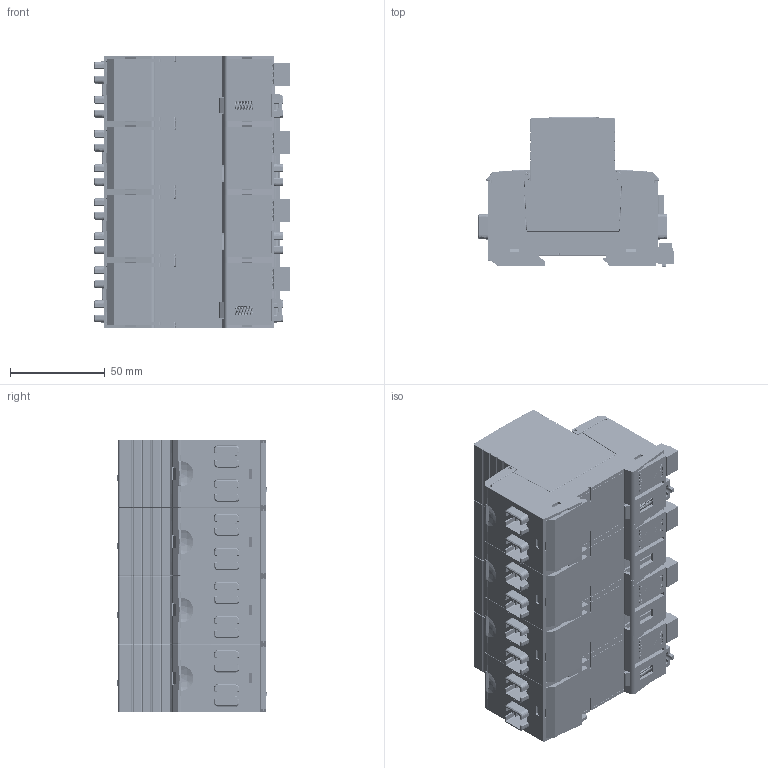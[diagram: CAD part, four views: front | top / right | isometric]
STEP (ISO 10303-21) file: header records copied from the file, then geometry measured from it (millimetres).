
FILE_DESCRIPTION(/* description */ ('Unknown'),/* implementation_level */ '2;1');
FILE_NAME(/* name */ 'SD25TS1300L306',/* time_stamp */ '2023-04-10T12:03:49+08:00',/* author */ ('Unknown'),/* organization */ ('Unknown'),/* preprocessor_version */ 'ST-DEVELOPER v16.7',/* originating_system */ 'Solid Edge',/* authorisation */ 'Unknown');
FILE_SCHEMA (('AUTOMOTIVE_DESIGN {1 0 10303 214 3 1 1}'));
Products named in the file (38): ASM1000000833; ASM1000000062_oa_0; PRT1000000244; PRT1000000241; PRT1000000114; PRT1000001015; ASM1000000813_oa_1; PRT1000000236; ASM1000000062_oa_2; ASM1000000813_oa_3; ASM1000000062_oa_4; ASM1000000813_oa_5; ASM1000000062_oa_6; ASM1000000813_oa_7; ASM1000000065_oa_8; PRT1000000240; PRT1000000239; ASM1000000064_oa_9; PRT1000000238; ASM1000000020_oa_10; PRT1000000088; PRT1000000117; PRT1000001237; PRT1000004085; ASM1000000065_oa_11; ASM1000000064_oa_12; ASM1000000020_oa_13; ASM1000000065_oa_14; ASM1000000064_oa_15; ASM1000000020_oa_16; ASM1000000065_oa_17; ASM1000000064_oa_18; ASM1000000020_oa_19; PRT1000000121; PRT1000000120; PRT1000001242; PRT1000000232; PRT1000000231
Assembly tree (91 placements, depth 4):
  ASM1000000833
    ASM1000000062_oa_0
      PRT1000000244
      PRT1000000241  x2
      PRT1000000114  x2
      PRT1000001015
      ASM1000000813_oa_1
        PRT1000000236
    ASM1000000062_oa_2
      PRT1000000244
      PRT1000000241  x2
      PRT1000000114  x2
      PRT1000001015
      ASM1000000813_oa_3
        PRT1000000236
    ASM1000000062_oa_4
      PRT1000000244
      PRT1000000241  x2
      PRT1000000114  x2
      PRT1000001015
      ASM1000000813_oa_5
        PRT1000000236
    ASM1000000062_oa_6
      PRT1000000244
      PRT1000000241  x2
      PRT1000000114  x2
      PRT1000001015
      ASM1000000813_oa_7
        PRT1000000236
    ASM1000000065_oa_8
      PRT1000000240
      PRT1000000239
      ASM1000000064_oa_9
        PRT1000000238
      ASM1000000020_oa_10
        PRT1000000088
      PRT1000000117
      PRT1000001237  x3
      PRT1000004085
    ASM1000000065_oa_11
      PRT1000000240
      PRT1000000239
      ASM1000000064_oa_12
        PRT1000000238
      ASM1000000020_oa_13
        PRT1000000088
      PRT1000000117
      PRT1000001237  x3
      PRT1000004085
    ASM1000000065_oa_14
      PRT1000000240
      PRT1000000239
      ASM1000000064_oa_15
        PRT1000000238
      ASM1000000020_oa_16
        PRT1000000088
      PRT1000000117
      PRT1000001237  x3
      PRT1000004085
    ASM1000000065_oa_17
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Bounding box: 103.4 x 78.74 x 144 mm (x, y, z)
Volume: 264634.1 mm3; surface area: 428597.8 mm2
Topology: 71 solids, 71 shells, 17309 faces, 47415 edges, 30446 vertices
Faces by surface type: plane 12467, cylinder 3488, torus 508, sphere 376, bspline 302, cone 168
Full cylindrical faces by diameter (mm): 1.5 x16, 1.6 x20, 1.8 x28, 2 x32, 2.2 x12, 2.4 x8, 2.5 x32, 2.8 x12, 2.9 x12, 5 x12, 6.8 x12, 7.5 x16, 9.5 x12
Entity records: 140355 total; most frequent: CARTESIAN_POINT 30659, ORIENTED_EDGE 23212, DIRECTION 21735, EDGE_CURVE 11606, LINE 9371, VECTOR 9371, VERTEX_POINT 7502, AXIS2_PLACEMENT_3D 6182
